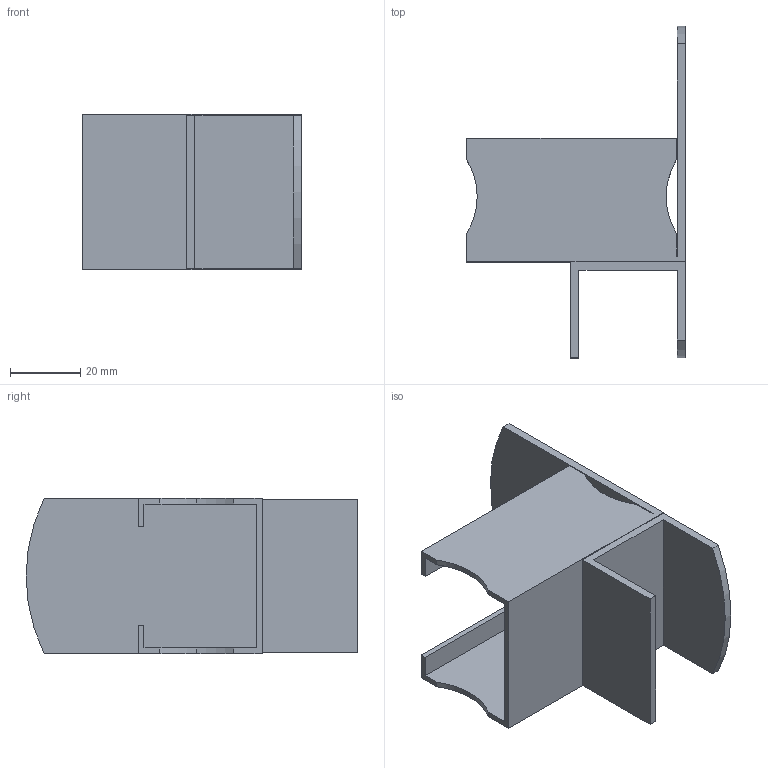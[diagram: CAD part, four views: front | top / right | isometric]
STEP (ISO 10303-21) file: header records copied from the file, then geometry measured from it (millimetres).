
FILE_DESCRIPTION (( 'STEP AP214' ), '1' );
FILE_NAME ('JB-506.step', '2024-01-17T00:58:08', ( 'catia' ), ( 'HP Inc.' ), 'SwSTEP 2.0', 'SolidWorks 2021', '' );
FILE_SCHEMA (( 'AUTOMOTIVE_DESIGN' ));
Length unit declared in the file: millimetre
Products named in the file (1): JB-506
Bounding box: 62.3 x 94.6 x 44.2 mm (x, y, z)
Volume: 26471.7 mm3; surface area: 26103.9 mm2
Topology: 1 solids, 1 shells, 36 faces, 102 edges, 68 vertices
Faces by surface type: plane 28, cylinder 8
Entity records: 1196 total; most frequent: CARTESIAN_POINT 207, ORIENTED_EDGE 204, DIRECTION 192, EDGE_CURVE 102, LINE 86, VECTOR 86, VERTEX_POINT 68, AXIS2_PLACEMENT_3D 53
